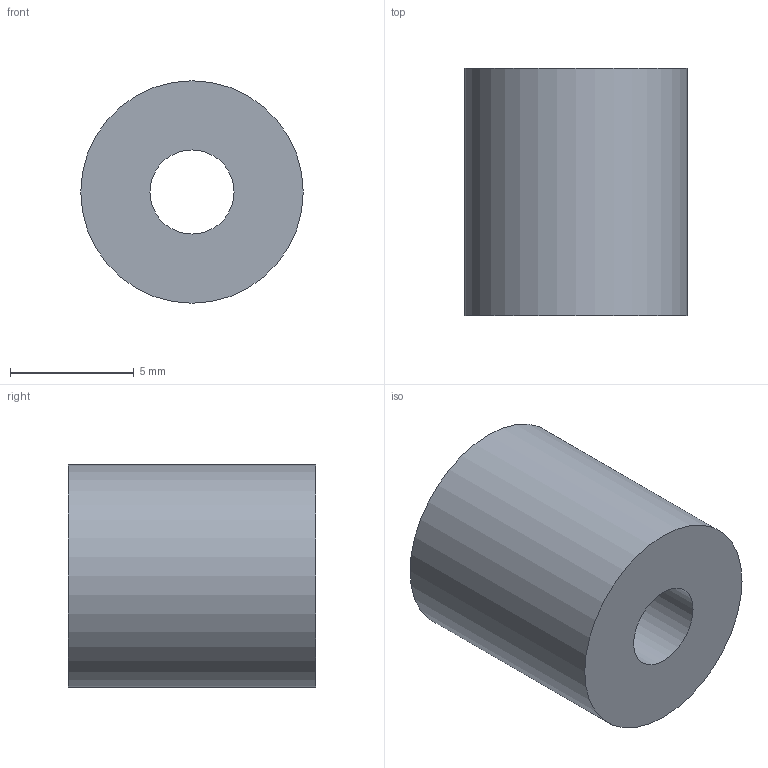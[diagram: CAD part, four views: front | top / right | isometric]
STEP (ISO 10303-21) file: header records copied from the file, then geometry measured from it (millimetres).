
FILE_DESCRIPTION(('FreeCAD Model'),'2;1');
FILE_NAME('Open CASCADE Shape Model','2026-10-31T13:49:49',('FreeCAD'),( 'FreeCAD'),'Open CASCADE STEP processor 7.8','FreeCAD','Unknown');
FILE_SCHEMA(('AUTOMOTIVE_DESIGN { 1 0 10303 214 1 1 1 1 }'));
Length unit declared in the file: millimetre
Products named in the file (1): Open CASCADE STEP translator 7.8 21
Bounding box: 9 x 10 x 9 mm (x, y, z)
Volume: 545.4 mm3; surface area: 498.6 mm2
Topology: 1 solids, 1 shells, 4 faces, 6 edges, 4 vertices
Faces by surface type: cylinder 2, plane 2
Full cylindrical faces by diameter (mm): 3.4 x1, 9 x1
Entity records: 108 total; most frequent: DIRECTION 20, CARTESIAN_POINT 15, ORIENTED_EDGE 12, AXIS2_PLACEMENT_3D 9, FACE_BOUND 6, EDGE_LOOP 6, EDGE_CURVE 6, ADVANCED_FACE 4
